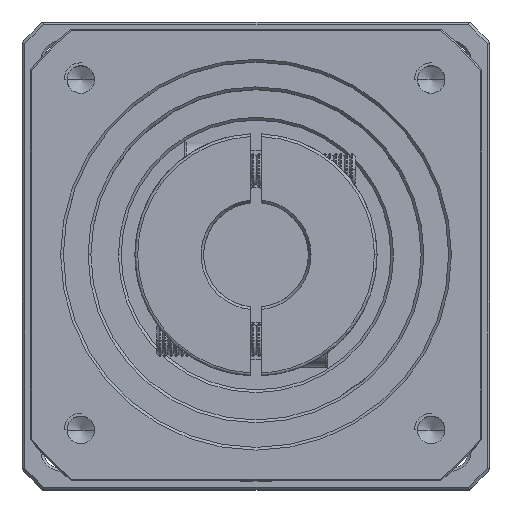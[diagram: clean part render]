
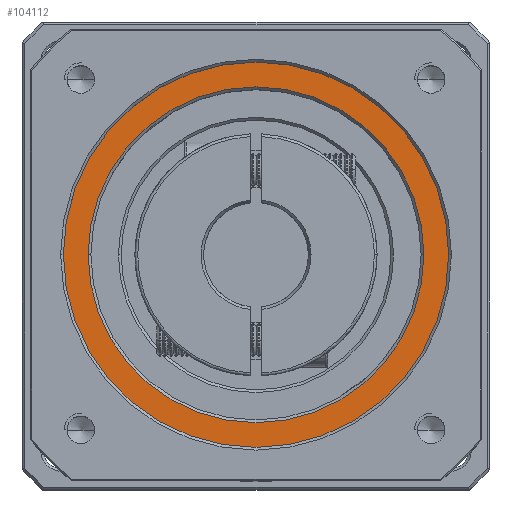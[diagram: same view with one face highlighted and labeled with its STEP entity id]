
A CAD part, top view. The second image highlights one B-rep face of the part: STEP entity #104112.
In plain terms, the highlighted planar face has unit normal (0, 0, 1).
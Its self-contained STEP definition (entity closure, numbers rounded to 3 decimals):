
#1831 = VERTEX_POINT ( 'NONE', #17965 ) ;
#4288 = CARTESIAN_POINT ( 'NONE',  ( -50.756, 39.269, -4.755 ) ) ;
#4553 = VERTEX_POINT ( 'NONE', #125257 ) ;
#5423 = CARTESIAN_POINT ( 'NONE',  ( -50.756, 39.269, -4.755 ) ) ;
#6502 = EDGE_CURVE ( 'NONE', #1831, #4553, #70254, .T. ) ;
#14083 = AXIS2_PLACEMENT_3D ( 'NONE', #5423, #14831, #113253 ) ;
#14831 = DIRECTION ( 'NONE',  ( 0., 0., -1. ) ) ;
#17965 = CARTESIAN_POINT ( 'NONE',  ( -85.756, 39.269, -4.755 ) ) ;
#18130 = CIRCLE ( 'NONE', #14083, 30.5 ) ;
#22625 = CARTESIAN_POINT ( 'NONE',  ( -50.756, 39.269, -4.755 ) ) ;
#24645 = DIRECTION ( 'NONE',  ( 0., 0., 1. ) ) ;
#29760 = CARTESIAN_POINT ( 'NONE',  ( -50.756, 39.269, -4.755 ) ) ;
#32437 = DIRECTION ( 'NONE',  ( 1., 0., 0. ) ) ;
#32515 = FACE_BOUND ( 'NONE', #35744, .T. ) ;
#35744 = EDGE_LOOP ( 'NONE', ( #40962, #64785 ) ) ;
#37492 = EDGE_CURVE ( 'NONE', #101019, #104682, #18130, .T. ) ;
#40962 = ORIENTED_EDGE ( 'NONE', *, *, #37492, .T. ) ;
#42360 = DIRECTION ( 'NONE',  ( 0., 0., 1. ) ) ;
#48974 = CIRCLE ( 'NONE', #59361, 35. ) ;
#49335 = EDGE_CURVE ( 'NONE', #4553, #1831, #48974, .T. ) ;
#53337 = CARTESIAN_POINT ( 'NONE',  ( -50.756, 39.269, -4.755 ) ) ;
#59361 = AXIS2_PLACEMENT_3D ( 'NONE', #53337, #24645, #121820 ) ;
#64785 = ORIENTED_EDGE ( 'NONE', *, *, #102478, .T. ) ;
#68607 = ORIENTED_EDGE ( 'NONE', *, *, #6502, .T. ) ;
#70254 = CIRCLE ( 'NONE', #103213, 35. ) ;
#72709 = DIRECTION ( 'NONE',  ( 0., 0., -1. ) ) ;
#75584 = AXIS2_PLACEMENT_3D ( 'NONE', #4288, #72709, #92905 ) ;
#76025 = ORIENTED_EDGE ( 'NONE', *, *, #49335, .T. ) ;
#83823 = CIRCLE ( 'NONE', #75584, 30.5 ) ;
#87163 = DIRECTION ( 'NONE',  ( 1., 0., 0. ) ) ;
#87710 = FACE_OUTER_BOUND ( 'NONE', #91368, .T. ) ;
#89852 = AXIS2_PLACEMENT_3D ( 'NONE', #29760, #107635, #87163 ) ;
#91368 = EDGE_LOOP ( 'NONE', ( #76025, #68607 ) ) ;
#92905 = DIRECTION ( 'NONE',  ( 1., 0., 0. ) ) ;
#100996 = CARTESIAN_POINT ( 'NONE',  ( -20.256, 39.269, -4.755 ) ) ;
#101019 = VERTEX_POINT ( 'NONE', #100996 ) ;
#102478 = EDGE_CURVE ( 'NONE', #104682, #101019, #83823, .T. ) ;
#103213 = AXIS2_PLACEMENT_3D ( 'NONE', #22625, #42360, #32437 ) ;
#104112 = ADVANCED_FACE ( 'NONE', ( #87710, #32515 ), #117953, .T. ) ;
#104682 = VERTEX_POINT ( 'NONE', #122455 ) ;
#107635 = DIRECTION ( 'NONE',  ( 0., 0., 1. ) ) ;
#113253 = DIRECTION ( 'NONE',  ( 1., 0., 0. ) ) ;
#117953 = PLANE ( 'NONE',  #89852 ) ;
#121820 = DIRECTION ( 'NONE',  ( 1., 0., 0. ) ) ;
#122455 = CARTESIAN_POINT ( 'NONE',  ( -81.256, 39.269, -4.755 ) ) ;
#125257 = CARTESIAN_POINT ( 'NONE',  ( -15.756, 39.269, -4.755 ) ) ;
